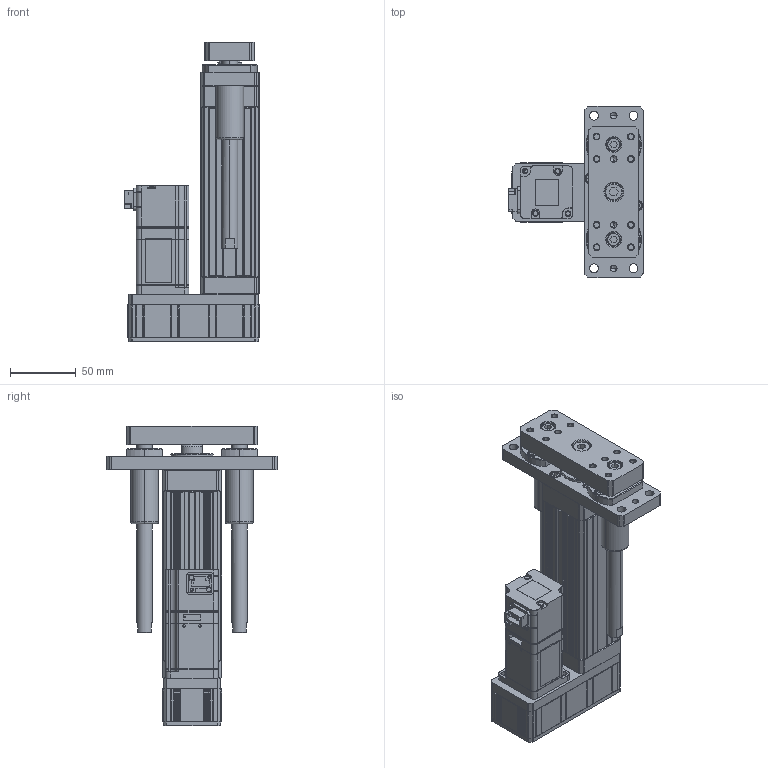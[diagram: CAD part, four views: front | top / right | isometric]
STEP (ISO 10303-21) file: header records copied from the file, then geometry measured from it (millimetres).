
FILE_DESCRIPTION (( 'STEP AP203' ), '1' );
FILE_NAME ('ANS045-GP050-05(10)-W10.STEP', '2019-02-14T03:10:24', ( 'user' ), ( '' ), 'SwSTEP 2.0', 'SolidWorks 2013', '' );
FILE_SCHEMA (( 'CONFIG_CONTROL_DESIGN' ));
Length unit declared in the file: millimetre
Products named in the file (4): ANS045-GP050-05(10)-W10; ANS045 GP050 VER2; ANS045 ROD ST050 G; SGMJV_01A_A21
Assembly tree (3 placements, depth 2):
  ANS045-GP050-05(10)-W10
    ANS045 GP050 VER2
    ANS045 ROD ST050 G
    SGMJV_01A_A21
Bounding box: 102.3 x 130 x 227.5 mm (x, y, z)
Volume: 572112.8 mm3; surface area: 173180 mm2
Topology: 3 solids, 23 shells, 1437 faces, 3610 edges, 2284 vertices
Faces by surface type: plane 766, cylinder 471, cone 194, torus 4, bspline 2
Entity records: 42978 total; most frequent: CARTESIAN_POINT 8067, DIRECTION 7202, ORIENTED_EDGE 7172, EDGE_CURVE 3586, AXIS2_PLACEMENT_3D 2403, LINE 2396, VECTOR 2396, VERTEX_POINT 2284
